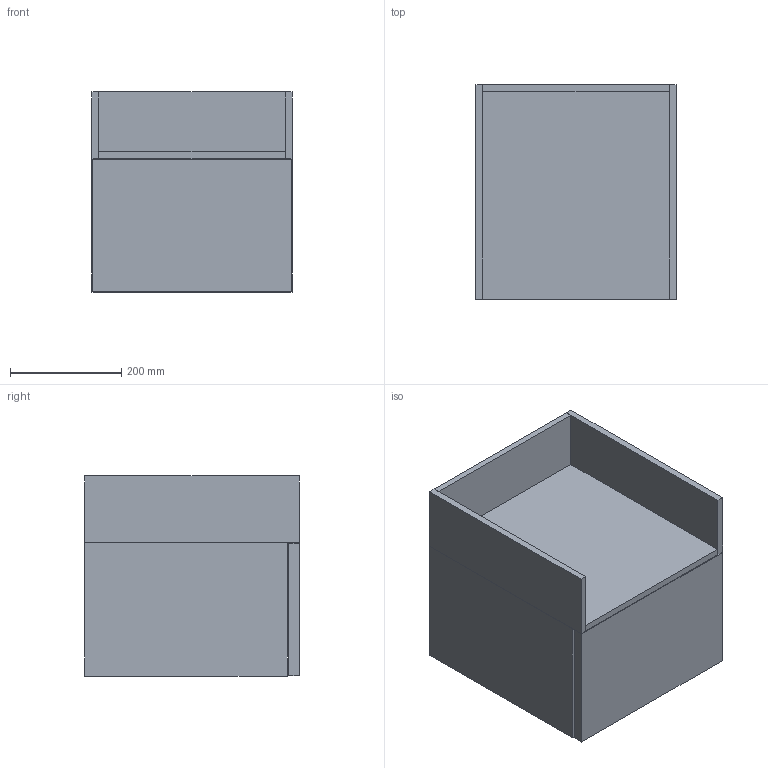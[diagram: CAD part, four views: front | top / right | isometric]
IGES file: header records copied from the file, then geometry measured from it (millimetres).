
Start section: Data from Parasolid IGES Translator 19.0.9, Copyright(c) 2006 Siemens PL M Software. All Rights Reserved.
Global section: file name: noorth-SI-H 36 D 38,8 W 36_8337.igs; native system: By Siemens PLM Incorporated; preprocessor: XPlus GENERIC/IGES 19.0.9; author: Noname; organization: Noname; date: 20200601.092158; units: metre
Bounding box: 360.01 x 386 x 360 mm (x, y, z)
Volume: 11555509.9 mm3; surface area: 1815484.2 mm2
Topology: 10 solids, 10 shells, 60 faces, 120 edges, 80 vertices
Faces by surface type: plane 60
